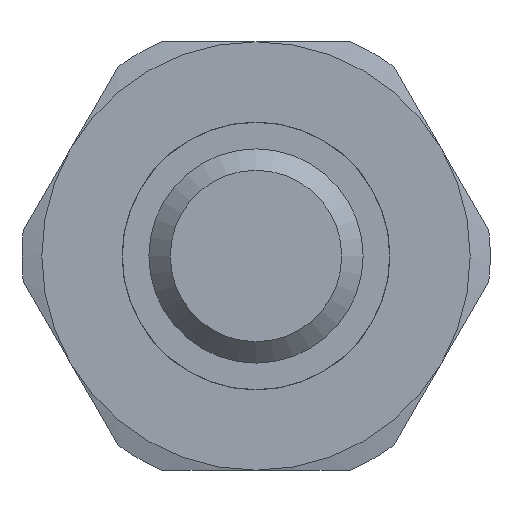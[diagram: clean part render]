
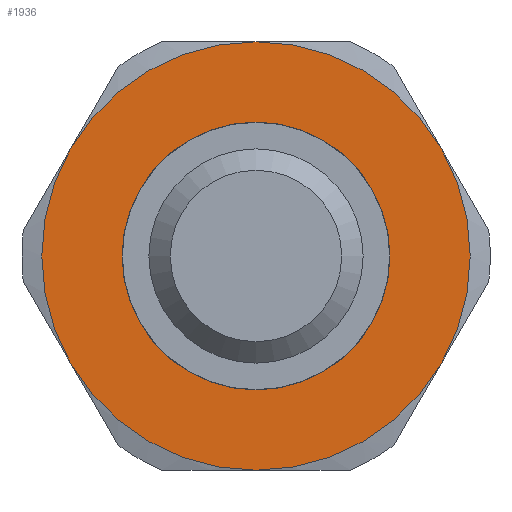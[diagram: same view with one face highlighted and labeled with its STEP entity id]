
A CAD part, left-side view. The second image highlights one B-rep face of the part: STEP entity #1936.
In plain terms, the highlighted planar face has unit normal (-1, 0, 0).
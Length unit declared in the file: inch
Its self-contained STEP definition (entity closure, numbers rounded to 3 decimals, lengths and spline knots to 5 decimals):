
#136=FACE_BOUND('',#573,.T.);
#154=PLANE('',#2199);
#445=FACE_OUTER_BOUND('',#572,.T.);
#572=EDGE_LOOP('',(#1583,#1584,#1585,#1586,#1587,#1588));
#573=EDGE_LOOP('',(#1589));
#698=CIRCLE('',#2115,0.3125);
#749=CIRCLE('',#2200,0.5);
#750=CIRCLE('',#2201,0.5);
#751=CIRCLE('',#2202,0.5);
#752=CIRCLE('',#2203,0.5);
#753=CIRCLE('',#2204,0.5);
#754=CIRCLE('',#2205,0.5);
#853=VERTEX_POINT('',#3634);
#914=VERTEX_POINT('',#3816);
#915=VERTEX_POINT('',#3817);
#916=VERTEX_POINT('',#3819);
#917=VERTEX_POINT('',#3821);
#918=VERTEX_POINT('',#3823);
#919=VERTEX_POINT('',#3825);
#1073=EDGE_CURVE('',#853,#853,#698,.T.);
#1159=EDGE_CURVE('',#914,#915,#749,.T.);
#1160=EDGE_CURVE('',#915,#916,#750,.T.);
#1161=EDGE_CURVE('',#916,#917,#751,.T.);
#1162=EDGE_CURVE('',#917,#918,#752,.T.);
#1163=EDGE_CURVE('',#918,#919,#753,.T.);
#1164=EDGE_CURVE('',#919,#914,#754,.T.);
#1583=ORIENTED_EDGE('',*,*,#1159,.T.);
#1584=ORIENTED_EDGE('',*,*,#1160,.T.);
#1585=ORIENTED_EDGE('',*,*,#1161,.T.);
#1586=ORIENTED_EDGE('',*,*,#1162,.T.);
#1587=ORIENTED_EDGE('',*,*,#1163,.T.);
#1588=ORIENTED_EDGE('',*,*,#1164,.T.);
#1589=ORIENTED_EDGE('',*,*,#1073,.F.);
#1936=ADVANCED_FACE('',(#445,#136),#154,.T.);
#2115=AXIS2_PLACEMENT_3D('',#3636,#2521,#2522);
#2199=AXIS2_PLACEMENT_3D('',#3815,#2724,#2725);
#2200=AXIS2_PLACEMENT_3D('',#3818,#2726,#2727);
#2201=AXIS2_PLACEMENT_3D('',#3820,#2728,#2729);
#2202=AXIS2_PLACEMENT_3D('',#3822,#2730,#2731);
#2203=AXIS2_PLACEMENT_3D('',#3824,#2732,#2733);
#2204=AXIS2_PLACEMENT_3D('',#3826,#2734,#2735);
#2205=AXIS2_PLACEMENT_3D('',#3827,#2736,#2737);
#2521=DIRECTION('center_axis',(-1.,0.,0.));
#2522=DIRECTION('ref_axis',(0.,-1.,0.));
#2724=DIRECTION('center_axis',(-1.,0.,0.));
#2725=DIRECTION('ref_axis',(0.,0.,-1.));
#2726=DIRECTION('center_axis',(-1.,0.,0.));
#2727=DIRECTION('ref_axis',(0.,0.,-1.));
#2728=DIRECTION('center_axis',(-1.,0.,0.));
#2729=DIRECTION('ref_axis',(0.,0.,-1.));
#2730=DIRECTION('center_axis',(-1.,0.,0.));
#2731=DIRECTION('ref_axis',(0.,0.,-1.));
#2732=DIRECTION('center_axis',(-1.,0.,0.));
#2733=DIRECTION('ref_axis',(0.,0.,-1.));
#2734=DIRECTION('center_axis',(-1.,0.,0.));
#2735=DIRECTION('ref_axis',(0.,0.,-1.));
#2736=DIRECTION('center_axis',(-1.,0.,0.));
#2737=DIRECTION('ref_axis',(0.,0.,-1.));
#3634=CARTESIAN_POINT('',(19.4102,6.10278,0.));
#3636=CARTESIAN_POINT('Origin',(19.4102,5.79028,0.));
#3815=CARTESIAN_POINT('Origin',(19.4102,5.79028,0.));
#3816=CARTESIAN_POINT('',(19.4102,6.22329,0.25));
#3817=CARTESIAN_POINT('',(19.4102,6.22329,-0.25));
#3818=CARTESIAN_POINT('Origin',(19.4102,5.79028,0.));
#3819=CARTESIAN_POINT('',(19.4102,5.79028,-0.5));
#3820=CARTESIAN_POINT('Origin',(19.4102,5.79028,0.));
#3821=CARTESIAN_POINT('',(19.4102,5.35726,-0.25));
#3822=CARTESIAN_POINT('Origin',(19.4102,5.79028,0.));
#3823=CARTESIAN_POINT('',(19.4102,5.35726,0.25));
#3824=CARTESIAN_POINT('Origin',(19.4102,5.79028,0.));
#3825=CARTESIAN_POINT('',(19.4102,5.79028,0.5));
#3826=CARTESIAN_POINT('Origin',(19.4102,5.79028,0.));
#3827=CARTESIAN_POINT('Origin',(19.4102,5.79028,0.));
